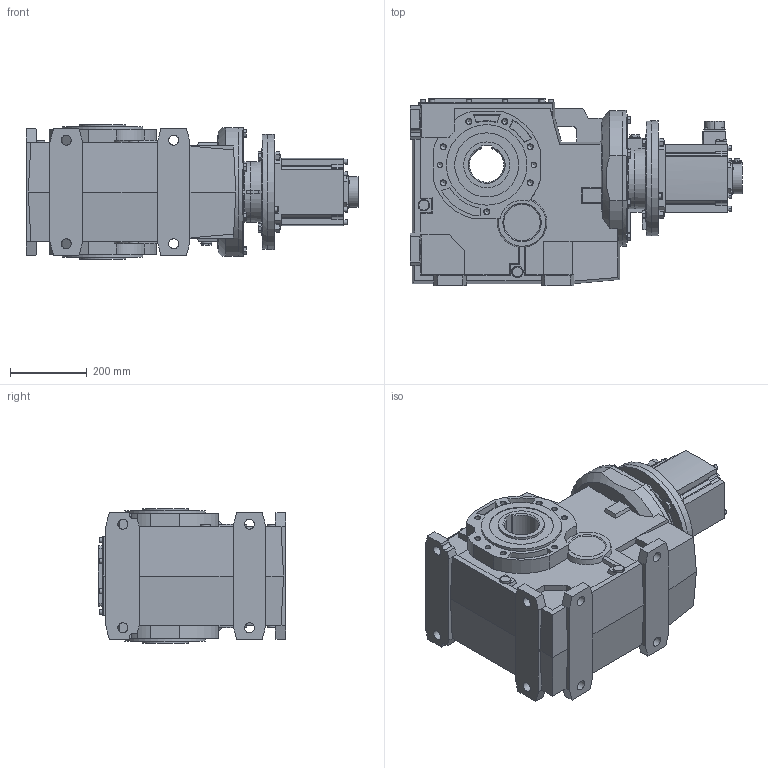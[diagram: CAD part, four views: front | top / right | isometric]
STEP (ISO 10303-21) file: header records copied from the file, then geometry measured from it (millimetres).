
FILE_DESCRIPTION(('FreeCAD Model'),'2;1');
FILE_NAME('Open CASCADE Shape Model','2025-10-23T16:10:00',(''),(''), 'Open CASCADE STEP processor 7.6','FreeCAD','Unknown');
FILE_SCHEMA(('AUTOMOTIVE_DESIGN { 1 0 10303 214 1 1 1 1 }'));
Length unit declared in the file: millimetre
Products named in the file (3): Unnamed; hg-sr702_1_001; 153 176_001
Assembly tree (2 placements, depth 2):
  Unnamed
    hg-sr702_1_001
    153 176_001
Bounding box: 865.5 x 489.5 x 350 mm (x, y, z)
Volume: 71833506.3 mm3; surface area: 2509085.9 mm2
Topology: 5 solids, 6 shells, 1137 faces, 2869 edges, 1896 vertices
Faces by surface type: plane 719, cylinder 353, cone 64, torus 1
Full cylindrical faces by diameter (mm): 9.1 x3, 12 x8, 13 x12, 13.835 x14, 14 x4, 26 x11, 28 x2, 30 x5, 46 x1, 55 x1, 110 x1, 120 x2, 167.082 x2, 210 x2, 230 x1, 300 x2, 305 x2
Entity records: 39487 total; most frequent: CARTESIAN_POINT 6299, DIRECTION 5805, ORIENTED_EDGE 5702, EDGE_CURVE 2851, AXIS2_PLACEMENT_3D 2006, VERTEX_POINT 1896, LINE 1793, VECTOR 1793
